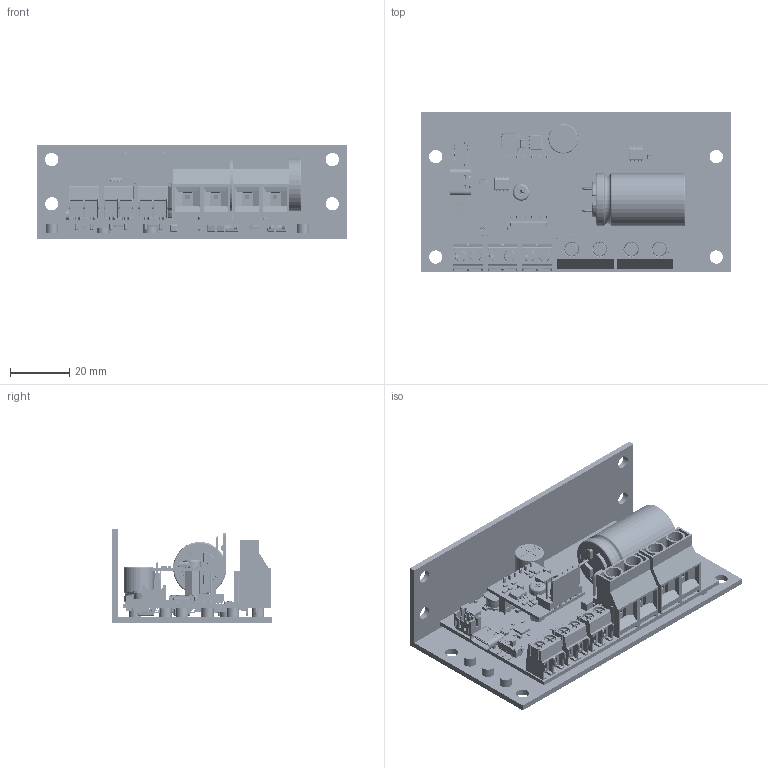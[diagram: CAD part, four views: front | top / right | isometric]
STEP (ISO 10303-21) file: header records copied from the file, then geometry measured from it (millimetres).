
FILE_DESCRIPTION(/* description */ (''),/* implementation_level */ '2;1');
FILE_NAME(/* name */ 'ADPC-48-450-U_w_bracket_.step',/* time_stamp */ '2024-02-01T17:43:54Z',/* author */ (''),/* organization */ (''),/* preprocessor_version */ 'ST-DEVELOPER v20',/* originating_system */ 'Autodesk Translation Framework v12.20.1.177',/* authorisation */ '');
FILE_SCHEMA (('AUTOMOTIVE_DESIGN { 1 0 10303 214 3 1 1 }'));
Products named in the file (2): ADPC-48-450-U_w_bracket; Component352
Assembly tree (1 placements, depth 2):
  ADPC-48-450-U_w_bracket
    Component352
Bounding box: 105 x 54 x 32 mm (x, y, z)
Volume: 42377.6 mm3; surface area: 48617.4 mm2
Topology: 10 solids, 34 shells, 10100 faces, 27840 edges, 18165 vertices
Faces by surface type: plane 6639, bspline 1564, cylinder 1519, sphere 162, torus 113, cone 103
Full cylindrical faces by diameter (mm): 0.046 x5, 0.077 x5, 0.102 x2, 0.193 x1, 0.254 x2, 0.4 x2, 0.457 x3, 0.5 x3, 0.635 x1, 0.8 x5, 1 x12, 1.038 x5, 1.194 x2, 1.5 x1, 1.6 x1, 2.2 x6, 2.6 x13, 2.7 x12, 3 x3, 3.1 x5, 3.5 x16, 4 x6, 4.2 x6, 4.5 x8, 5 x1, 5.2 x4, 5.7 x1, 7.74 x1, 8.14 x1, 10 x2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
Entity records: 356044 total; most frequent: CARTESIAN_POINT 104341, ORIENTED_EDGE 55592, DIRECTION 45083, EDGE_CURVE 27796, LINE 20791, VECTOR 20791, VERTEX_POINT 18233, AXIS2_PLACEMENT_3D 12146
